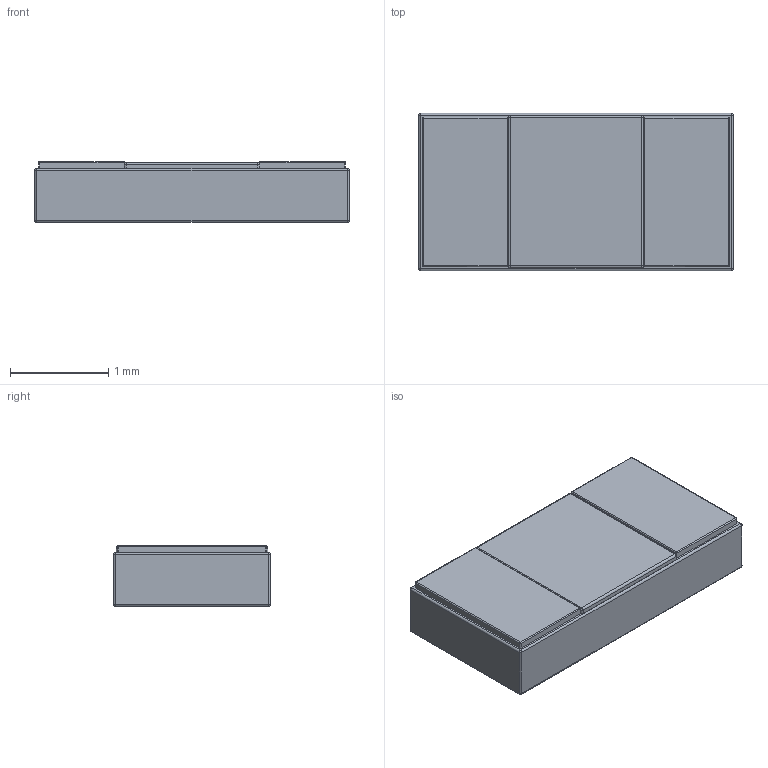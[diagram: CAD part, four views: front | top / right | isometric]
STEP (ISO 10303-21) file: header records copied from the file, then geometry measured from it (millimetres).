
FILE_DESCRIPTION(('STEP AP203'), '1');
FILE_NAME('R2-105-1206', '', ('UNSPECIFIED'), ('UNSPECIFIED'), 'ASCON STEP Converter 1.6', 'ASCON Math Kernel', '');
FILE_SCHEMA(('CONFIG_CONTROL_DESIGN'));
Length unit declared in the file: millimetre
Bounding box: 3.2 x 1.6 x 0.62 mm (x, y, z)
Volume: 3.1 mm3; surface area: 26.1 mm2
Topology: 4 solids, 5 shells, 91 faces, 207 edges, 110 vertices
Faces by surface type: plane 39, cylinder 36, sphere 16
Entity records: 3165 total; most frequent: DIRECTION 435, CARTESIAN_POINT 405, ORIENTED_EDGE 382, EDGE_CURVE 191, AXIS2_PLACEMENT_3D 156, LINE 123, VECTOR 123, VERTEX_POINT 110
